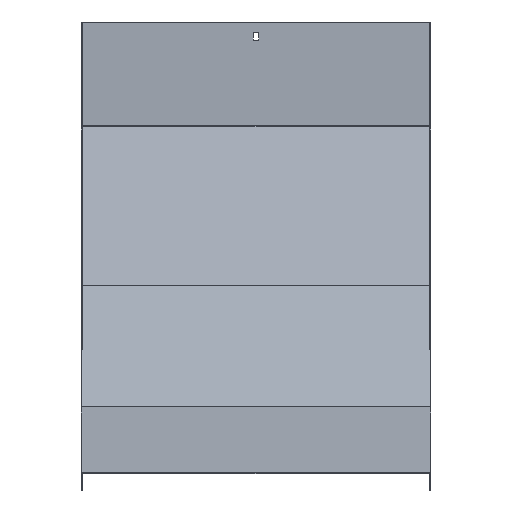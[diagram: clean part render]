
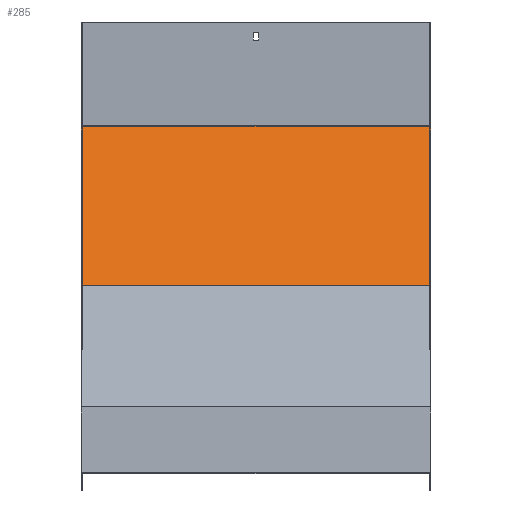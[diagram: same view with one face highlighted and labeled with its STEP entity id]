
A CAD part, top view. The second image highlights one B-rep face of the part: STEP entity #285.
In plain terms, the highlighted planar face has unit normal (0, 0.383, 0.924).
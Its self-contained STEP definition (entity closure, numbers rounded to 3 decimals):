
#85 = CARTESIAN_POINT ( 'NONE',  ( -201.5, 400.72, -520.72 ) ) ;
#100 = CARTESIAN_POINT ( 'NONE',  ( 201.5, 216.868, -444.566 ) ) ;
#115 = CARTESIAN_POINT ( 'NONE',  ( 201.5, 216.868, -444.566 ) ) ;
#142 = VERTEX_POINT ( 'NONE', #392 ) ;
#203 = DIRECTION ( 'NONE',  ( 0., 0.383, 0.924 ) ) ;
#237 = CARTESIAN_POINT ( 'NONE',  ( -201.5, 216.868, -444.566 ) ) ;
#249 = ORIENTED_EDGE ( 'NONE', *, *, #868, .F. ) ;
#285 = ADVANCED_FACE ( 'NONE', ( #699 ), #1046, .T. ) ;
#328 = ORIENTED_EDGE ( 'NONE', *, *, #1041, .T. ) ;
#336 = LINE ( 'NONE', #1089, #809 ) ;
#347 = VECTOR ( 'NONE', #812, 1000. ) ;
#349 = ORIENTED_EDGE ( 'NONE', *, *, #384, .F. ) ;
#364 = ORIENTED_EDGE ( 'NONE', *, *, #623, .T. ) ;
#369 = VERTEX_POINT ( 'NONE', #656 ) ;
#384 = EDGE_CURVE ( 'NONE', #142, #545, #671, .T. ) ;
#392 = CARTESIAN_POINT ( 'NONE',  ( -201.5, 216.868, -444.566 ) ) ;
#457 = VECTOR ( 'NONE', #904, 1000. ) ;
#534 = EDGE_LOOP ( 'NONE', ( #349, #249, #364, #328 ) ) ;
#545 = VERTEX_POINT ( 'NONE', #85 ) ;
#593 = VECTOR ( 'NONE', #615, 1000. ) ;
#615 = DIRECTION ( 'NONE',  ( -1., 0., 0. ) ) ;
#623 = EDGE_CURVE ( 'NONE', #1103, #369, #824, .T. ) ;
#638 = CARTESIAN_POINT ( 'NONE',  ( 201.5, 216.868, -444.566 ) ) ;
#656 = CARTESIAN_POINT ( 'NONE',  ( 201.5, 400.72, -520.72 ) ) ;
#671 = LINE ( 'NONE', #237, #457 ) ;
#699 = FACE_OUTER_BOUND ( 'NONE', #534, .T. ) ;
#762 = DIRECTION ( 'NONE',  ( -1., 0., 0. ) ) ;
#809 = VECTOR ( 'NONE', #762, 1000. ) ;
#812 = DIRECTION ( 'NONE',  ( 0., 0.924, -0.383 ) ) ;
#824 = LINE ( 'NONE', #115, #347 ) ;
#868 = EDGE_CURVE ( 'NONE', #1103, #142, #885, .T. ) ;
#871 = AXIS2_PLACEMENT_3D ( 'NONE', #638, #203, #895 ) ;
#885 = LINE ( 'NONE', #100, #593 ) ;
#895 = DIRECTION ( 'NONE',  ( 0., -0.924, 0.383 ) ) ;
#904 = DIRECTION ( 'NONE',  ( 0., 0.924, -0.383 ) ) ;
#1030 = CARTESIAN_POINT ( 'NONE',  ( 201.5, 216.868, -444.566 ) ) ;
#1041 = EDGE_CURVE ( 'NONE', #369, #545, #336, .T. ) ;
#1046 = PLANE ( 'NONE',  #871 ) ;
#1089 = CARTESIAN_POINT ( 'NONE',  ( 201.5, 400.72, -520.72 ) ) ;
#1103 = VERTEX_POINT ( 'NONE', #1030 ) ;
